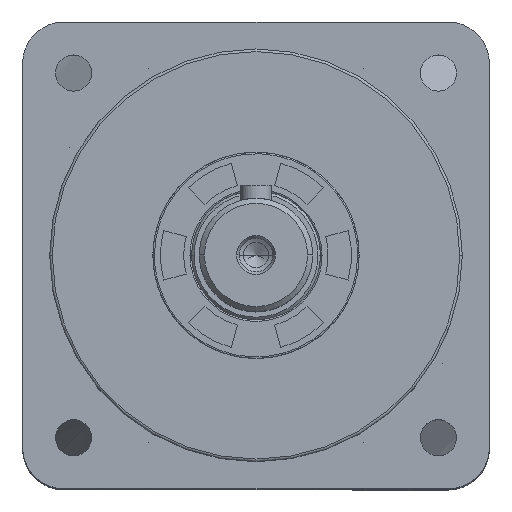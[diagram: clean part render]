
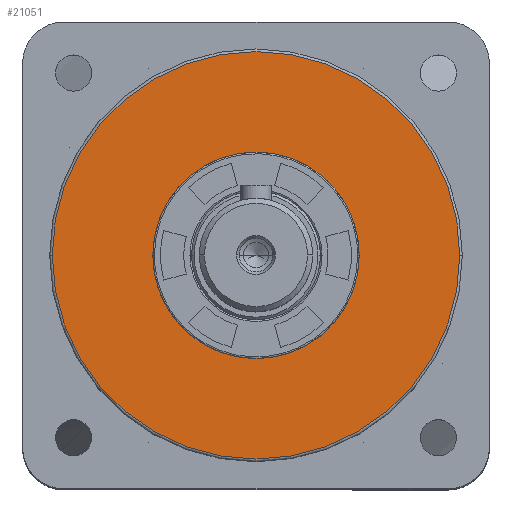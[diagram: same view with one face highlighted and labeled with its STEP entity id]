
A CAD part, top view. The second image highlights one B-rep face of the part: STEP entity #21051.
In plain terms, the highlighted planar face has unit normal (0, 0, 1).
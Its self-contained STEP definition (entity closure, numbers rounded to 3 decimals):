
#5 = CIRCLE ( 'NONE', #3778, 39.5 ) ;
#225 = CARTESIAN_POINT ( 'NONE',  ( 0., 0., 26.1 ) ) ;
#1385 = ORIENTED_EDGE ( 'NONE', *, *, #23470, .F. ) ;
#1474 = DIRECTION ( 'NONE',  ( 0., 0., 1. ) ) ;
#2264 = CARTESIAN_POINT ( 'NONE',  ( 0., 0., 26.1 ) ) ;
#3778 = AXIS2_PLACEMENT_3D ( 'NONE', #225, #11795, #28023 ) ;
#3807 = EDGE_CURVE ( 'NONE', #22831, #17361, #21592, .T. ) ;
#3816 = AXIS2_PLACEMENT_3D ( 'NONE', #15500, #1474, #11185 ) ;
#4506 = DIRECTION ( 'NONE',  ( 0., 0., 1. ) ) ;
#9313 = EDGE_LOOP ( 'NONE', ( #24494, #19854 ) ) ;
#10418 = DIRECTION ( 'NONE',  ( 0., 0., 1. ) ) ;
#10461 = DIRECTION ( 'NONE',  ( 0., 0., 1. ) ) ;
#11185 = DIRECTION ( 'NONE',  ( 1., 0., 0. ) ) ;
#11219 = CIRCLE ( 'NONE', #23469, 20. ) ;
#11349 = FACE_BOUND ( 'NONE', #23635, .T. ) ;
#11603 = CARTESIAN_POINT ( 'NONE',  ( 39.5, 0., 26.1 ) ) ;
#11795 = DIRECTION ( 'NONE',  ( 0., 0., 1. ) ) ;
#12081 = CARTESIAN_POINT ( 'NONE',  ( -20., 0., 26.1 ) ) ;
#15079 = DIRECTION ( 'NONE',  ( 1., 0., 0. ) ) ;
#15500 = CARTESIAN_POINT ( 'NONE',  ( 0., 0., 26.1 ) ) ;
#17270 = DIRECTION ( 'NONE',  ( 1., 0., 0. ) ) ;
#17271 = ORIENTED_EDGE ( 'NONE', *, *, #26707, .F. ) ;
#17361 = VERTEX_POINT ( 'NONE', #25306 ) ;
#17894 = CIRCLE ( 'NONE', #3816, 20. ) ;
#18415 = CARTESIAN_POINT ( 'NONE',  ( 20., 0., 26.1 ) ) ;
#18440 = PLANE ( 'NONE',  #23609 ) ;
#19854 = ORIENTED_EDGE ( 'NONE', *, *, #19864, .T. ) ;
#19864 = EDGE_CURVE ( 'NONE', #17361, #22831, #5, .T. ) ;
#20919 = DIRECTION ( 'NONE',  ( 1., 0., 0. ) ) ;
#21051 = ADVANCED_FACE ( 'NONE', ( #30083, #11349 ), #18440, .T. ) ;
#21592 = CIRCLE ( 'NONE', #28703, 39.5 ) ;
#22081 = VERTEX_POINT ( 'NONE', #12081 ) ;
#22831 = VERTEX_POINT ( 'NONE', #11603 ) ;
#23469 = AXIS2_PLACEMENT_3D ( 'NONE', #29138, #10461, #15079 ) ;
#23470 = EDGE_CURVE ( 'NONE', #22081, #29426, #17894, .T. ) ;
#23609 = AXIS2_PLACEMENT_3D ( 'NONE', #2264, #4506, #20919 ) ;
#23635 = EDGE_LOOP ( 'NONE', ( #17271, #1385 ) ) ;
#24494 = ORIENTED_EDGE ( 'NONE', *, *, #3807, .T. ) ;
#25306 = CARTESIAN_POINT ( 'NONE',  ( -39.5, 0., 26.1 ) ) ;
#26707 = EDGE_CURVE ( 'NONE', #29426, #22081, #11219, .T. ) ;
#26929 = CARTESIAN_POINT ( 'NONE',  ( 0., 0., 26.1 ) ) ;
#28023 = DIRECTION ( 'NONE',  ( 1., 0., 0. ) ) ;
#28703 = AXIS2_PLACEMENT_3D ( 'NONE', #26929, #10418, #17270 ) ;
#29138 = CARTESIAN_POINT ( 'NONE',  ( 0., 0., 26.1 ) ) ;
#29426 = VERTEX_POINT ( 'NONE', #18415 ) ;
#30083 = FACE_OUTER_BOUND ( 'NONE', #9313, .T. ) ;
